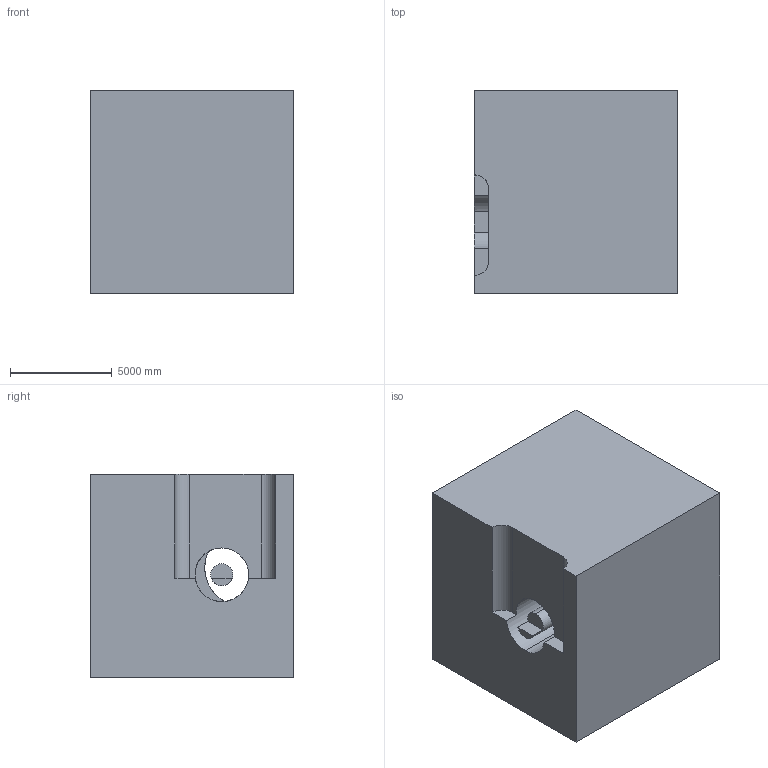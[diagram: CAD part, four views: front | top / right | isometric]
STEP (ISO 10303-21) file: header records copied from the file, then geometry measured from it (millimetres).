
FILE_DESCRIPTION (( 'STEP AP203' ), '1' );
FILE_NAME ('228.STEP', '2022-07-28T13:58:25', ( 'user' ), ( '' ), 'SwSTEP 2.0', 'SolidWorks 2021', '' );
FILE_SCHEMA (( 'CONFIG_CONTROL_DESIGN' ));
Length unit declared in the file: centimetre
Products named in the file (1): 228
Bounding box: 10000 x 10000 x 10000 mm (x, y, z)
Volume: 920073534864.6 mm3; surface area: 709830409.3 mm2
Topology: 2 solids, 2 shells, 23 faces, 60 edges, 40 vertices
Faces by surface type: plane 15, cylinder 8
Entity records: 797 total; most frequent: DIRECTION 132, CARTESIAN_POINT 124, ORIENTED_EDGE 120, EDGE_CURVE 60, AXIS2_PLACEMENT_3D 48, VERTEX_POINT 40, VECTOR 36, LINE 36
